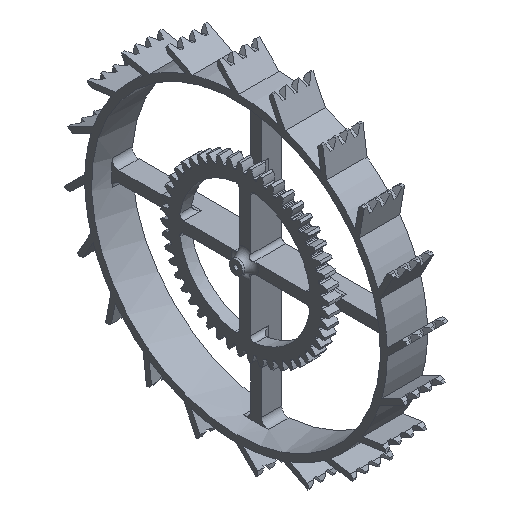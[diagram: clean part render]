
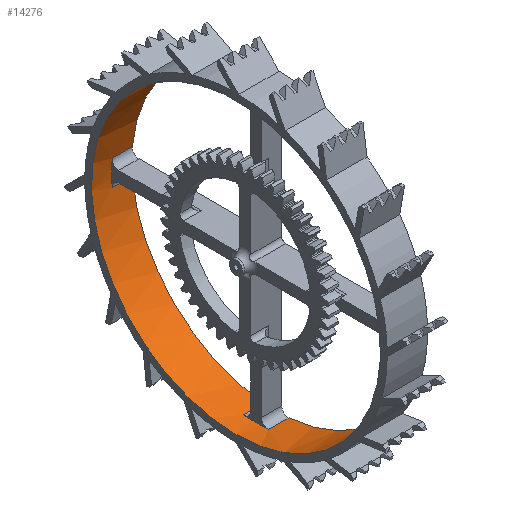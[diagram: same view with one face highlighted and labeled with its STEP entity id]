
A CAD part, isometric view. The second image highlights one B-rep face of the part: STEP entity #14276.
In plain terms, the highlighted cylindrical face has radius 107.5 mm (diameter 215 mm), a full revolution.
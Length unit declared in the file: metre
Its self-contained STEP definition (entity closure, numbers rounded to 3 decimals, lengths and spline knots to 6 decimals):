
#423=CYLINDRICAL_SURFACE('',#15376,0.1075);
#769=CIRCLE('',#14968,0.1075);
#773=CIRCLE('',#14972,0.1075);
#779=CIRCLE('',#14978,0.1075);
#783=CIRCLE('',#14982,0.1075);
#962=CIRCLE('',#15362,0.1075);
#964=CIRCLE('',#15365,0.1075);
#967=CIRCLE('',#15369,0.1075);
#971=CIRCLE('',#15374,0.1075);
#973=CIRCLE('',#15377,0.1075);
#2009=LINE('',#29235,#2950);
#2010=LINE('',#29236,#2951);
#2011=LINE('',#29237,#2952);
#2012=LINE('',#29238,#2953);
#2013=LINE('',#29239,#2954);
#2014=LINE('',#29240,#2955);
#2015=LINE('',#29241,#2956);
#2016=LINE('',#29242,#2957);
#2950=VECTOR('',#18346,1.);
#2951=VECTOR('',#18347,1.);
#2952=VECTOR('',#18348,1.);
#2953=VECTOR('',#18349,1.);
#2954=VECTOR('',#18350,1.);
#2955=VECTOR('',#18351,1.);
#2956=VECTOR('',#18352,1.);
#2957=VECTOR('',#18353,1.);
#6220=ORIENTED_EDGE('',*,*,#9576,.F.);
#6221=ORIENTED_EDGE('',*,*,#8919,.T.);
#6222=ORIENTED_EDGE('',*,*,#9577,.T.);
#6223=ORIENTED_EDGE('',*,*,#9561,.T.);
#6224=ORIENTED_EDGE('',*,*,#9578,.T.);
#6225=ORIENTED_EDGE('',*,*,#8912,.T.);
#6226=ORIENTED_EDGE('',*,*,#9579,.T.);
#6227=ORIENTED_EDGE('',*,*,#9559,.T.);
#6228=ORIENTED_EDGE('',*,*,#9580,.T.);
#6229=ORIENTED_EDGE('',*,*,#8903,.T.);
#6230=ORIENTED_EDGE('',*,*,#9581,.T.);
#6231=ORIENTED_EDGE('',*,*,#9566,.T.);
#6232=ORIENTED_EDGE('',*,*,#9582,.T.);
#6233=ORIENTED_EDGE('',*,*,#8897,.T.);
#6234=ORIENTED_EDGE('',*,*,#9583,.T.);
#6235=ORIENTED_EDGE('',*,*,#9574,.T.);
#6236=ORIENTED_EDGE('',*,*,#9584,.T.);
#8897=EDGE_CURVE('',#10899,#10898,#769,.T.);
#8903=EDGE_CURVE('',#10905,#10904,#773,.T.);
#8912=EDGE_CURVE('',#10914,#10913,#779,.T.);
#8919=EDGE_CURVE('',#10921,#10920,#783,.T.);
#9559=EDGE_CURVE('',#11260,#11259,#962,.T.);
#9561=EDGE_CURVE('',#11261,#11262,#964,.T.);
#9566=EDGE_CURVE('',#11265,#11266,#967,.T.);
#9574=EDGE_CURVE('',#11272,#11271,#971,.T.);
#9576=EDGE_CURVE('',#11273,#11273,#973,.T.);
#9577=EDGE_CURVE('',#10920,#11261,#2009,.T.);
#9578=EDGE_CURVE('',#11262,#10914,#2010,.F.);
#9579=EDGE_CURVE('',#10913,#11260,#2011,.T.);
#9580=EDGE_CURVE('',#11259,#10905,#2012,.F.);
#9581=EDGE_CURVE('',#10904,#11265,#2013,.T.);
#9582=EDGE_CURVE('',#11266,#10899,#2014,.F.);
#9583=EDGE_CURVE('',#10898,#11272,#2015,.T.);
#9584=EDGE_CURVE('',#11271,#10921,#2016,.F.);
#10898=VERTEX_POINT('',#25225);
#10899=VERTEX_POINT('',#25227);
#10904=VERTEX_POINT('',#25237);
#10905=VERTEX_POINT('',#25239);
#10913=VERTEX_POINT('',#25255);
#10914=VERTEX_POINT('',#25257);
#10920=VERTEX_POINT('',#25269);
#10921=VERTEX_POINT('',#25271);
#11259=VERTEX_POINT('',#29198);
#11260=VERTEX_POINT('',#29200);
#11261=VERTEX_POINT('',#29204);
#11262=VERTEX_POINT('',#29205);
#11265=VERTEX_POINT('',#29214);
#11266=VERTEX_POINT('',#29215);
#11271=VERTEX_POINT('',#29228);
#11272=VERTEX_POINT('',#29230);
#11273=VERTEX_POINT('',#29234);
#12541=EDGE_LOOP('',(#6220));
#12542=EDGE_LOOP('',(#6221,#6222,#6223,#6224,#6225,#6226,#6227,#6228,#6229,
#6230,#6231,#6232,#6233,#6234,#6235,#6236));
#13301=FACE_BOUND('',#12541,.T.);
#13302=FACE_BOUND('',#12542,.T.);
#14276=ADVANCED_FACE('',(#13301,#13302),#423,.F.);
#14968=AXIS2_PLACEMENT_3D('',#25226,#17203,#17204);
#14972=AXIS2_PLACEMENT_3D('',#25238,#17213,#17214);
#14978=AXIS2_PLACEMENT_3D('',#25256,#17228,#17229);
#14982=AXIS2_PLACEMENT_3D('',#25270,#17239,#17240);
#15362=AXIS2_PLACEMENT_3D('',#29199,#18308,#18309);
#15365=AXIS2_PLACEMENT_3D('',#29203,#18314,#18315);
#15369=AXIS2_PLACEMENT_3D('',#29213,#18324,#18325);
#15374=AXIS2_PLACEMENT_3D('',#29229,#18338,#18339);
#15376=AXIS2_PLACEMENT_3D('',#29232,#18342,#18343);
#15377=AXIS2_PLACEMENT_3D('',#29233,#18344,#18345);
#17203=DIRECTION('',(1.,0.,0.));
#17204=DIRECTION('',(0.,0.,-1.));
#17213=DIRECTION('',(1.,0.,0.));
#17214=DIRECTION('',(0.,0.,-1.));
#17228=DIRECTION('',(1.,0.,0.));
#17229=DIRECTION('',(0.,0.,-1.));
#17239=DIRECTION('',(1.,0.,0.));
#17240=DIRECTION('',(0.,0.,-1.));
#18308=DIRECTION('',(1.,0.,0.));
#18309=DIRECTION('',(0.,0.,-1.));
#18314=DIRECTION('',(1.,0.,0.));
#18315=DIRECTION('',(0.,0.,-1.));
#18324=DIRECTION('',(1.,0.,0.));
#18325=DIRECTION('',(0.,0.,-1.));
#18338=DIRECTION('',(1.,0.,0.));
#18339=DIRECTION('',(0.,0.,-1.));
#18342=DIRECTION('',(-1.,0.,0.));
#18343=DIRECTION('',(0.,0.,1.));
#18344=DIRECTION('',(1.,0.,0.));
#18345=DIRECTION('',(0.,0.,-1.));
#18346=DIRECTION('',(-1.,0.,0.));
#18347=DIRECTION('',(-1.,0.,0.));
#18348=DIRECTION('',(-1.,0.,0.));
#18349=DIRECTION('',(-1.,0.,0.));
#18350=DIRECTION('',(-1.,0.,0.));
#18351=DIRECTION('',(-1.,0.,0.));
#18352=DIRECTION('',(-1.,0.,0.));
#18353=DIRECTION('',(-1.,0.,0.));
#25225=CARTESIAN_POINT('',(0.015,-0.305819,0.103803));
#25226=CARTESIAN_POINT('',(0.015,-0.198734,0.094364));
#25227=CARTESIAN_POINT('',(0.015,-0.208173,0.201449));
#25237=CARTESIAN_POINT('',(0.015,-0.189295,0.201449));
#25238=CARTESIAN_POINT('',(0.015,-0.198734,0.094364));
#25239=CARTESIAN_POINT('',(0.015,-0.091649,0.103803));
#25255=CARTESIAN_POINT('',(0.015,-0.091656,0.084847));
#25256=CARTESIAN_POINT('',(0.015,-0.198734,0.094364));
#25257=CARTESIAN_POINT('',(0.015,-0.189298,-0.012721));
#25269=CARTESIAN_POINT('',(0.015,-0.208173,-0.01272));
#25270=CARTESIAN_POINT('',(0.015,-0.198734,0.094364));
#25271=CARTESIAN_POINT('',(0.015,-0.305819,0.084925));
#29198=CARTESIAN_POINT('',(0.,-0.091649,0.103803));
#29199=CARTESIAN_POINT('',(0.,-0.198734,0.094364));
#29200=CARTESIAN_POINT('',(0.,-0.091656,0.084847));
#29203=CARTESIAN_POINT('',(0.,-0.198734,0.094364));
#29204=CARTESIAN_POINT('',(0.,-0.208173,-0.01272));
#29205=CARTESIAN_POINT('',(0.,-0.189298,-0.012721));
#29213=CARTESIAN_POINT('',(0.,-0.198734,0.094364));
#29214=CARTESIAN_POINT('',(0.,-0.189295,0.201449));
#29215=CARTESIAN_POINT('',(0.,-0.208173,0.201449));
#29228=CARTESIAN_POINT('',(0.,-0.305819,0.084925));
#29229=CARTESIAN_POINT('',(0.,-0.198734,0.094364));
#29230=CARTESIAN_POINT('',(0.,-0.305819,0.103803));
#29232=CARTESIAN_POINT('',(0.015,-0.198734,0.094364));
#29233=CARTESIAN_POINT('',(-0.015,-0.198734,0.094364));
#29234=CARTESIAN_POINT('',(-0.015,-0.198734,-0.013136));
#29235=CARTESIAN_POINT('',(0.015,-0.208173,-0.01272));
#29236=CARTESIAN_POINT('',(0.015,-0.189298,-0.012721));
#29237=CARTESIAN_POINT('',(0.015,-0.091656,0.084847));
#29238=CARTESIAN_POINT('',(0.015,-0.091649,0.103803));
#29239=CARTESIAN_POINT('',(0.015,-0.189295,0.201449));
#29240=CARTESIAN_POINT('',(0.015,-0.208173,0.201449));
#29241=CARTESIAN_POINT('',(0.015,-0.305819,0.103803));
#29242=CARTESIAN_POINT('',(0.015,-0.305819,0.084925));
